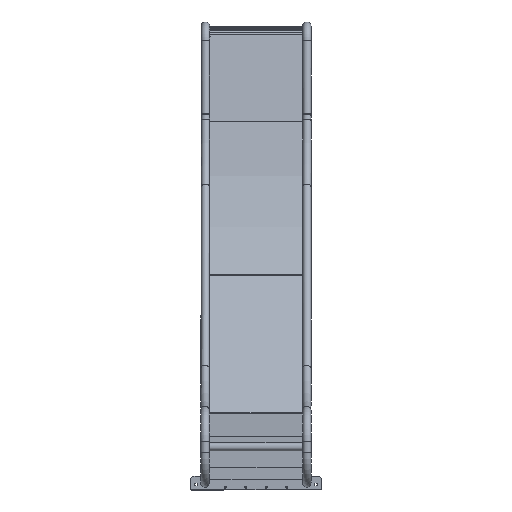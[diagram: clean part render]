
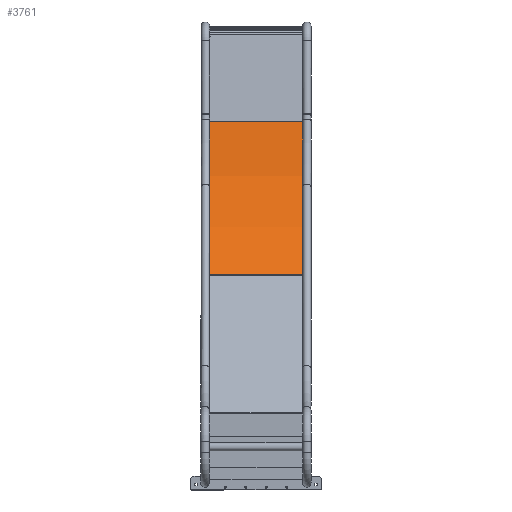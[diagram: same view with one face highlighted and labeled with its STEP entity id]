
A CAD part, left-side view. The second image highlights one B-rep face of the part: STEP entity #3761.
In plain terms, the highlighted cylindrical face has radius 1522.43 mm (diameter 3044.85 mm), a partial arc.
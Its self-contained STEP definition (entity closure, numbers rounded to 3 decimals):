
#194=CIRCLE('',#4196,1522.427);
#196=CIRCLE('',#4201,1522.427);
#325=CYLINDRICAL_SURFACE('',#4202,1522.427);
#403=FACE_OUTER_BOUND('',#638,.T.);
#638=EDGE_LOOP('',(#2557,#2558,#2559,#2560));
#897=LINE('',#5812,#1267);
#901=LINE('',#5826,#1271);
#1267=VECTOR('',#4633,10.);
#1271=VECTOR('',#4649,10.);
#1633=VERTEX_POINT('',#5806);
#1635=VERTEX_POINT('',#5810);
#1637=VERTEX_POINT('',#5816);
#1639=VERTEX_POINT('',#5824);
#1973=EDGE_CURVE('',#1633,#1635,#897,.T.);
#1976=EDGE_CURVE('',#1637,#1635,#194,.T.);
#1980=EDGE_CURVE('',#1639,#1637,#901,.T.);
#1981=EDGE_CURVE('',#1639,#1633,#196,.T.);
#2557=ORIENTED_EDGE('',*,*,#1973,.T.);
#2558=ORIENTED_EDGE('',*,*,#1976,.F.);
#2559=ORIENTED_EDGE('',*,*,#1980,.F.);
#2560=ORIENTED_EDGE('',*,*,#1981,.T.);
#3761=ADVANCED_FACE('',(#403),#325,.F.);
#4196=AXIS2_PLACEMENT_3D('',#5818,#4639,#4640);
#4201=AXIS2_PLACEMENT_3D('',#5828,#4652,#4653);
#4202=AXIS2_PLACEMENT_3D('',#5829,#4654,#4655);
#4633=DIRECTION('',(0.,1.,0.));
#4639=DIRECTION('center_axis',(0.,-1.,0.));
#4640=DIRECTION('ref_axis',(1.,0.,0.));
#4649=DIRECTION('',(0.,1.,0.));
#4652=DIRECTION('center_axis',(0.,-1.,0.));
#4653=DIRECTION('ref_axis',(1.,0.,0.));
#4654=DIRECTION('center_axis',(0.,1.,0.));
#4655=DIRECTION('ref_axis',(1.,0.,0.));
#5806=CARTESIAN_POINT('',(39.711,0.,1521.909));
#5810=CARTESIAN_POINT('',(39.711,427.,1521.909));
#5812=CARTESIAN_POINT('',(39.711,0.,1521.909));
#5816=CARTESIAN_POINT('',(760.047,427.,1319.132));
#5818=CARTESIAN_POINT('Origin',(0.,427.,0.));
#5824=CARTESIAN_POINT('',(760.047,0.,1319.132));
#5826=CARTESIAN_POINT('',(760.047,0.,1319.132));
#5828=CARTESIAN_POINT('Origin',(0.,0.,0.));
#5829=CARTESIAN_POINT('Origin',(0.,0.,0.));
